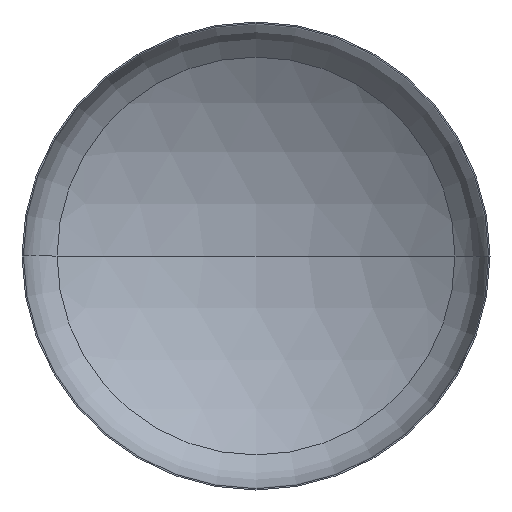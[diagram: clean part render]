
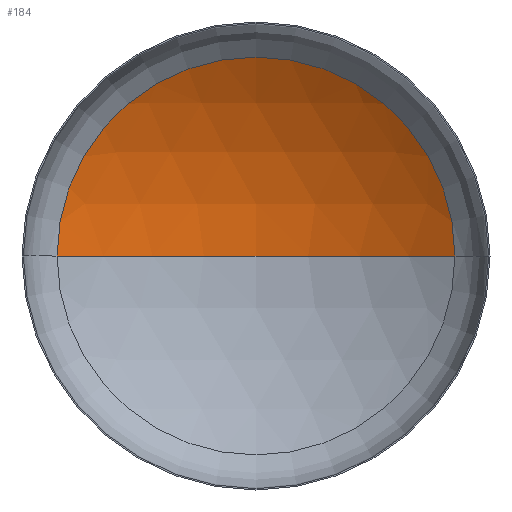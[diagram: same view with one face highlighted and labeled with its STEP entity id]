
A CAD part, front view. The second image highlights one B-rep face of the part: STEP entity #184.
In plain terms, the highlighted spherical face has radius 4400 mm.
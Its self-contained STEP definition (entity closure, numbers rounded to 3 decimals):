
#33 = AXIS2_PLACEMENT_3D ( 'NONE', #172, #407, #205 ) ;
#36 = EDGE_CURVE ( 'NONE', #357, #240, #153, .T. ) ;
#40 = CARTESIAN_POINT ( 'NONE',  ( -2338.003, 770.836, 0. ) ) ;
#58 = EDGE_CURVE ( 'NONE', #291, #357, #243, .T. ) ;
#91 = AXIS2_PLACEMENT_3D ( 'NONE', #344, #142, #378 ) ;
#92 = ORIENTED_EDGE ( 'NONE', *, *, #115, .F. ) ;
#115 = EDGE_CURVE ( 'NONE', #291, #240, #209, .T. ) ;
#116 = EDGE_LOOP ( 'NONE', ( #92, #204, #411 ) ) ;
#117 = CARTESIAN_POINT ( 'NONE',  ( 0., -2956.595, 0. ) ) ;
#120 = SPHERICAL_SURFACE ( 'NONE', #252, 4400. ) ;
#122 = CARTESIAN_POINT ( 'NONE',  ( 0., -2956.595, 0. ) ) ;
#140 = DIRECTION ( 'NONE',  ( -1., 0., 0. ) ) ;
#142 = DIRECTION ( 'NONE',  ( 0., 0., 1. ) ) ;
#150 = DIRECTION ( 'NONE',  ( -1., 0., 0. ) ) ;
#153 = CIRCLE ( 'NONE', #33, 2338.003 ) ;
#172 = CARTESIAN_POINT ( 'NONE',  ( 0., 770.836, 0. ) ) ;
#184 = ADVANCED_FACE ( 'NONE', ( #198 ), #120, .F. ) ;
#185 = AXIS2_PLACEMENT_3D ( 'NONE', #117, #340, #140 ) ;
#198 = FACE_OUTER_BOUND ( 'NONE', #116, .T. ) ;
#204 = ORIENTED_EDGE ( 'NONE', *, *, #58, .T. ) ;
#205 = DIRECTION ( 'NONE',  ( 1., 0., 0. ) ) ;
#209 = CIRCLE ( 'NONE', #91, 4400. ) ;
#240 = VERTEX_POINT ( 'NONE', #40 ) ;
#243 = CIRCLE ( 'NONE', #185, 4400. ) ;
#252 = AXIS2_PLACEMENT_3D ( 'NONE', #122, #351, #150 ) ;
#287 = CARTESIAN_POINT ( 'NONE',  ( 0., 1443.405, 0. ) ) ;
#291 = VERTEX_POINT ( 'NONE', #287 ) ;
#340 = DIRECTION ( 'NONE',  ( 0., 0., -1. ) ) ;
#344 = CARTESIAN_POINT ( 'NONE',  ( 0., -2956.595, 0. ) ) ;
#351 = DIRECTION ( 'NONE',  ( 0., 0., -1. ) ) ;
#357 = VERTEX_POINT ( 'NONE', #362 ) ;
#362 = CARTESIAN_POINT ( 'NONE',  ( 2338.003, 770.836, 0. ) ) ;
#378 = DIRECTION ( 'NONE',  ( 1., 0., 0. ) ) ;
#407 = DIRECTION ( 'NONE',  ( 0., -1., 0. ) ) ;
#411 = ORIENTED_EDGE ( 'NONE', *, *, #36, .T. ) ;
